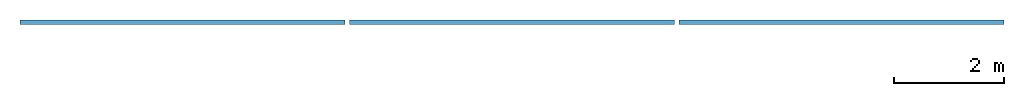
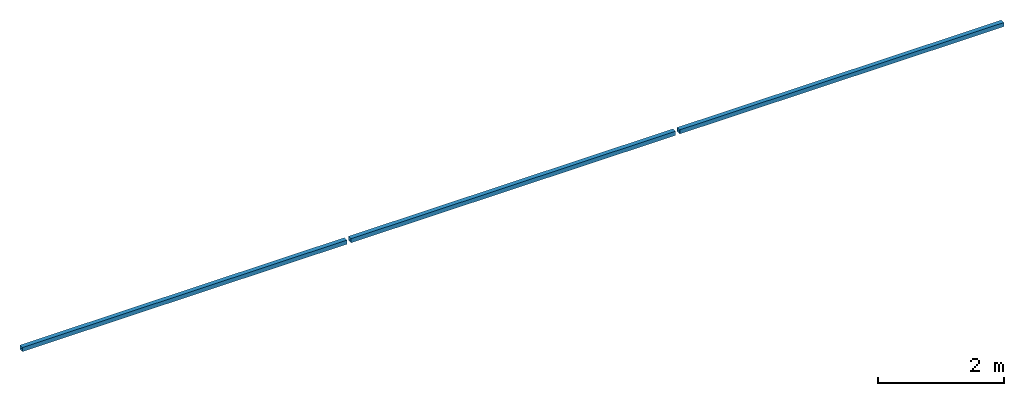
# One storey: 3 beams.
"""IFC2X3 building model written with IfcOpenShell, lengths in millimetres."""

from ifc_helpers import new_model, entity, si_unit, converted_unit, derived_unit, direction, frame, frame_2d, origin_with_axes, origin_2d_with_axis, place, context, subcontext, project, spatial, rectangle, extrude, boolean, material, type_object, element, save


model = new_model("IFC2X3")

# Units and contexts
model_context = context("Model", 3, precision=0.01, world=frame((0.0, 4.29681676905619e-09, 0.0)), true_north=direction((4.01073788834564e-13, 1.0)))
plan_context = context("Plan", 3, precision=0.01, world=frame((0.0, 4.29681676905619e-09, 0.0)), true_north=direction((4.01073788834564e-13, 1.0)))
body_context = subcontext(model_context, "Body", "Model", "MODEL_VIEW")
ifc_project = project(units=[converted_unit("PLANEANGLEUNIT", "DEGREE", entity("IfcPositiveLengthMeasure", 0.0174532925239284), si_unit("PLANEANGLEUNIT", "RADIAN"), dimensions=[0, 0, 0, 0, 0, 0, 0]), si_unit("AREAUNIT", "SQUARE_METRE"), si_unit("LENGTHUNIT", "METRE", prefix="MILLI"), si_unit("MASSUNIT", "GRAM", prefix="KILO"), si_unit("POWERUNIT", "WATT"), si_unit("PRESSUREUNIT", "PASCAL", prefix="KILO"), si_unit("FORCEUNIT", "NEWTON", prefix="KILO"), si_unit("ELECTRICVOLTAGEUNIT", "VOLT"), si_unit("ELECTRICCURRENTUNIT", "AMPERE"), si_unit("THERMODYNAMICTEMPERATUREUNIT", "DEGREE_CELSIUS"), si_unit("TIMEUNIT", "SECOND"), si_unit("VOLUMEUNIT", "CUBIC_METRE"), derived_unit("LINEARVELOCITYUNIT", [(si_unit("LENGTHUNIT", "METRE"), 1), (si_unit("TIMEUNIT", "SECOND"), -1)]), derived_unit("VOLUMETRICFLOWRATEUNIT", [(si_unit("VOLUMEUNIT", "CUBIC_METRE"), 1), (si_unit("TIMEUNIT", "SECOND"), -1)]), derived_unit("THERMALTRANSMITTANCEUNIT", [(si_unit("POWERUNIT", "WATT"), 1), (si_unit("THERMODYNAMICTEMPERATUREUNIT", "KELVIN"), -1), (si_unit("AREAUNIT", "SQUARE_METRE"), -1)]), derived_unit("SOUNDPRESSUREUNIT", [(si_unit("PRESSUREUNIT", "PASCAL"), 1)])], contexts=[model_context, plan_context])

# Site, building, storey
site_placement = place(None, origin_with_axes())
site = spatial("IfcSite", under=ifc_project, at=site_placement, Name="ENGM", CompositionType="ELEMENT")
building_placement = place(site_placement, origin_with_axes())
building = spatial("IfcBuilding", under=site, at=building_placement, Name="TS", CompositionType="ELEMENT")
storey_placement = place(building_placement, frame((0.0, 0.0, 207370.000000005), z_axis=(0.0, 0.0, 1.0), x_axis=(1.0, 0.0, 0.0)))
storey = spatial("IfcBuildingStorey", under=building, at=storey_placement, Name="Nivå E", CompositionType="ELEMENT", Elevation=207370.000000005)

# Beams
ifc_material = material(Name="_NSW Stål")
beam_type = type_object("IfcBeamType", Name="B223 - Bjelke - HUP:B223 - HUP 80x80x4", PredefinedType="NOTDEFINED")
for number, where, z_axis, x_axis, name in (
    (1, (600960.0, 397811.000000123, -870.000000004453), (0.0, 0.0, 1.0), (-1.0, 0.0, 0.0), "B223 - Bjelke - HUP:B223 - HUP 80x80x4"),
    (2, (606960.0, 397811.000000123, -870.000000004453), (0.0, 0.0, 1.0), (-1.0, 0.0, 0.0), "B223 - Bjelke - HUP:B223 - HUP 80x80x4"),
    (3, (612960.0, 397811.000000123, -870.000000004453), (0.0, 0.0, 1.0), (-1.0, 0.0, 0.0), "B223 - Bjelke - HUP:B223 - HUP 80x80x4"),
):
    element("IfcBeam", number, at=place(storey_placement, frame(where, z_axis=z_axis, x_axis=x_axis)), inside=storey, type_object=beam_type, material=ifc_material, Name=name, ObjectType="B223 - Bjelke - HUP:B223 - HUP 80x80x4", context=body_context, shape_type="SweptSolid", body=[
        boolean("DIFFERENCE", extrude(rectangle(XDim=79.9999999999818, YDim=79.9999999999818, at=origin_2d_with_axis()), frame((0.0, 0.0, 40.0), z_axis=(1.0, 0.0, 0.0), x_axis=(0.0, 0.0, -1.0)), (0.0, 0.0, 1.0), 5920.00000000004), extrude(rectangle(XDim=71.9999999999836, YDim=71.9999999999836, at=frame_2d((0.0, 0.0), x_axis=(0.0, 1.0))), frame((0.0, 0.0, 40.0), z_axis=(1.0, 0.0, 0.0), x_axis=(0.0, -1.0, 0.0)), (0.0, 0.0, 1.0), 5920.00000000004)),
    ])

save(model, "model.ifc")
